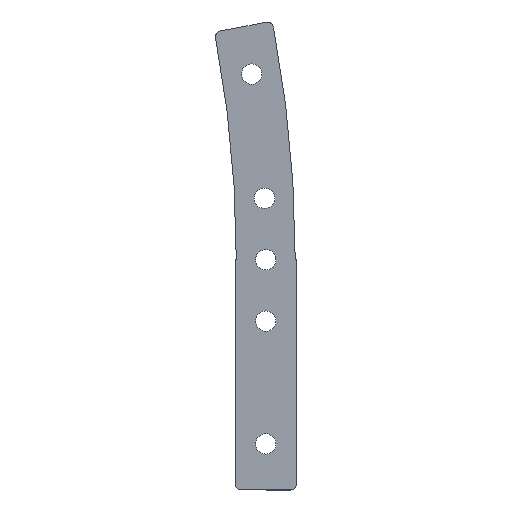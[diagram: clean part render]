
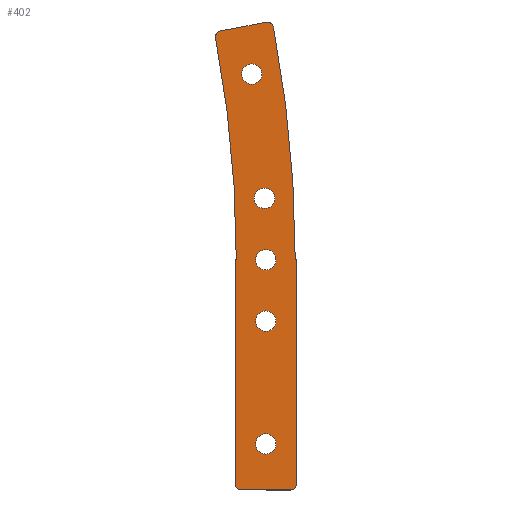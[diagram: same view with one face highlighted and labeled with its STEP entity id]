
A CAD part, top view. The second image highlights one B-rep face of the part: STEP entity #402.
In plain terms, the highlighted planar face has unit normal (0, 0, 1).
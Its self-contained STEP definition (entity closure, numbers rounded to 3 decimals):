
#20=FACE_BOUND('',#76,.T.);
#21=FACE_BOUND('',#77,.T.);
#22=FACE_BOUND('',#78,.T.);
#23=FACE_BOUND('',#79,.T.);
#24=FACE_BOUND('',#80,.T.);
#32=PLANE('',#468);
#51=FACE_OUTER_BOUND('',#75,.T.);
#75=EDGE_LOOP('',(#351,#352,#353,#354,#355,#356,#357,#358,#359,#360,#361,
#362));
#76=EDGE_LOOP('',(#363,#364));
#77=EDGE_LOOP('',(#365,#366));
#78=EDGE_LOOP('',(#367,#368));
#79=EDGE_LOOP('',(#369,#370));
#80=EDGE_LOOP('',(#371,#372));
#85=LINE('',#607,#114);
#93=LINE('',#645,#122);
#97=LINE('',#655,#126);
#104=LINE('',#693,#133);
#108=LINE('',#703,#137);
#109=LINE('',#705,#138);
#114=VECTOR('',#483,10.);
#122=VECTOR('',#519,10.);
#126=VECTOR('',#529,10.);
#133=VECTOR('',#572,10.);
#137=VECTOR('',#586,10.);
#138=VECTOR('',#589,10.);
#139=CIRCLE('',#424,2.);
#151=CIRCLE('',#439,2.);
#152=CIRCLE('',#442,2.);
#153=CIRCLE('',#445,2.);
#154=CIRCLE('',#447,3.324);
#155=CIRCLE('',#448,3.324);
#156=CIRCLE('',#450,3.324);
#157=CIRCLE('',#451,3.324);
#158=CIRCLE('',#453,3.324);
#159=CIRCLE('',#454,3.324);
#160=CIRCLE('',#456,3.324);
#161=CIRCLE('',#457,3.324);
#162=CIRCLE('',#459,3.324);
#163=CIRCLE('',#460,3.324);
#164=CIRCLE('',#463,390.4);
#165=CIRCLE('',#465,409.6);
#166=VERTEX_POINT('',#594);
#167=VERTEX_POINT('',#595);
#171=VERTEX_POINT('',#605);
#186=VERTEX_POINT('',#639);
#187=VERTEX_POINT('',#643);
#188=VERTEX_POINT('',#647);
#189=VERTEX_POINT('',#648);
#190=VERTEX_POINT('',#653);
#191=VERTEX_POINT('',#657);
#192=VERTEX_POINT('',#661);
#193=VERTEX_POINT('',#662);
#194=VERTEX_POINT('',#667);
#195=VERTEX_POINT('',#668);
#196=VERTEX_POINT('',#673);
#197=VERTEX_POINT('',#674);
#198=VERTEX_POINT('',#679);
#199=VERTEX_POINT('',#680);
#200=VERTEX_POINT('',#685);
#201=VERTEX_POINT('',#686);
#202=VERTEX_POINT('',#691);
#203=VERTEX_POINT('',#692);
#204=VERTEX_POINT('',#699);
#205=EDGE_CURVE('',#166,#167,#139,.T.);
#211=EDGE_CURVE('',#171,#166,#85,.T.);
#227=EDGE_CURVE('',#186,#171,#151,.T.);
#230=EDGE_CURVE('',#187,#186,#93,.T.);
#231=EDGE_CURVE('',#188,#189,#152,.T.);
#235=EDGE_CURVE('',#190,#188,#97,.T.);
#236=EDGE_CURVE('',#191,#190,#153,.T.);
#238=EDGE_CURVE('',#192,#193,#154,.T.);
#239=EDGE_CURVE('',#193,#192,#155,.T.);
#241=EDGE_CURVE('',#194,#195,#156,.T.);
#242=EDGE_CURVE('',#195,#194,#157,.T.);
#244=EDGE_CURVE('',#196,#197,#158,.T.);
#245=EDGE_CURVE('',#197,#196,#159,.T.);
#247=EDGE_CURVE('',#198,#199,#160,.T.);
#248=EDGE_CURVE('',#199,#198,#161,.T.);
#250=EDGE_CURVE('',#200,#201,#162,.T.);
#251=EDGE_CURVE('',#201,#200,#163,.T.);
#253=EDGE_CURVE('',#202,#203,#104,.T.);
#256=EDGE_CURVE('',#203,#191,#164,.T.);
#257=EDGE_CURVE('',#189,#204,#165,.T.);
#259=EDGE_CURVE('',#204,#187,#108,.T.);
#260=EDGE_CURVE('',#167,#202,#109,.T.);
#351=ORIENTED_EDGE('',*,*,#205,.F.);
#352=ORIENTED_EDGE('',*,*,#211,.F.);
#353=ORIENTED_EDGE('',*,*,#227,.F.);
#354=ORIENTED_EDGE('',*,*,#230,.F.);
#355=ORIENTED_EDGE('',*,*,#259,.F.);
#356=ORIENTED_EDGE('',*,*,#257,.F.);
#357=ORIENTED_EDGE('',*,*,#231,.F.);
#358=ORIENTED_EDGE('',*,*,#235,.F.);
#359=ORIENTED_EDGE('',*,*,#236,.F.);
#360=ORIENTED_EDGE('',*,*,#256,.F.);
#361=ORIENTED_EDGE('',*,*,#253,.F.);
#362=ORIENTED_EDGE('',*,*,#260,.F.);
#363=ORIENTED_EDGE('',*,*,#238,.T.);
#364=ORIENTED_EDGE('',*,*,#239,.T.);
#365=ORIENTED_EDGE('',*,*,#241,.T.);
#366=ORIENTED_EDGE('',*,*,#242,.T.);
#367=ORIENTED_EDGE('',*,*,#244,.T.);
#368=ORIENTED_EDGE('',*,*,#245,.T.);
#369=ORIENTED_EDGE('',*,*,#247,.T.);
#370=ORIENTED_EDGE('',*,*,#248,.T.);
#371=ORIENTED_EDGE('',*,*,#250,.T.);
#372=ORIENTED_EDGE('',*,*,#251,.T.);
#402=ADVANCED_FACE('',(#51,#20,#21,#22,#23,#24),#32,.T.);
#424=AXIS2_PLACEMENT_3D('',#596,#473,#474);
#439=AXIS2_PLACEMENT_3D('',#640,#513,#514);
#442=AXIS2_PLACEMENT_3D('',#649,#522,#523);
#445=AXIS2_PLACEMENT_3D('',#658,#532,#533);
#447=AXIS2_PLACEMENT_3D('',#663,#537,#538);
#448=AXIS2_PLACEMENT_3D('',#664,#539,#540);
#450=AXIS2_PLACEMENT_3D('',#669,#544,#545);
#451=AXIS2_PLACEMENT_3D('',#670,#546,#547);
#453=AXIS2_PLACEMENT_3D('',#675,#551,#552);
#454=AXIS2_PLACEMENT_3D('',#676,#553,#554);
#456=AXIS2_PLACEMENT_3D('',#681,#558,#559);
#457=AXIS2_PLACEMENT_3D('',#682,#560,#561);
#459=AXIS2_PLACEMENT_3D('',#687,#565,#566);
#460=AXIS2_PLACEMENT_3D('',#688,#567,#568);
#463=AXIS2_PLACEMENT_3D('',#697,#577,#578);
#465=AXIS2_PLACEMENT_3D('',#700,#581,#582);
#468=AXIS2_PLACEMENT_3D('',#706,#590,#591);
#473=DIRECTION('center_axis',(0.,0.,-1.));
#474=DIRECTION('ref_axis',(-0.707,-0.707,0.));
#483=DIRECTION('',(-1.,0.,0.));
#513=DIRECTION('center_axis',(0.,0.,-1.));
#514=DIRECTION('ref_axis',(0.707,-0.707,0.));
#519=DIRECTION('',(0.,-1.,0.));
#522=DIRECTION('center_axis',(0.,0.,-1.));
#523=DIRECTION('ref_axis',(0.562,0.827,0.));
#529=DIRECTION('',(0.982,0.19,0.));
#532=DIRECTION('center_axis',(0.,0.,-1.));
#533=DIRECTION('ref_axis',(-0.827,0.562,0.));
#537=DIRECTION('center_axis',(0.,0.,-1.));
#538=DIRECTION('ref_axis',(1.,0.,0.));
#539=DIRECTION('center_axis',(0.,0.,-1.));
#540=DIRECTION('ref_axis',(1.,0.,0.));
#544=DIRECTION('center_axis',(0.,0.,-1.));
#545=DIRECTION('ref_axis',(1.,0.,0.));
#546=DIRECTION('center_axis',(0.,0.,-1.));
#547=DIRECTION('ref_axis',(1.,0.,0.));
#551=DIRECTION('center_axis',(0.,0.,-1.));
#552=DIRECTION('ref_axis',(1.,0.,0.));
#553=DIRECTION('center_axis',(0.,0.,-1.));
#554=DIRECTION('ref_axis',(1.,0.,0.));
#558=DIRECTION('center_axis',(0.,0.,-1.));
#559=DIRECTION('ref_axis',(1.,0.,0.));
#560=DIRECTION('center_axis',(0.,0.,-1.));
#561=DIRECTION('ref_axis',(1.,0.,0.));
#565=DIRECTION('center_axis',(0.,0.,-1.));
#566=DIRECTION('ref_axis',(1.,0.,0.));
#567=DIRECTION('center_axis',(0.,0.,-1.));
#568=DIRECTION('ref_axis',(1.,0.,0.));
#572=DIRECTION('',(1.,0.,0.));
#577=DIRECTION('center_axis',(0.,0.,1.));
#578=DIRECTION('ref_axis',(1.,0.,0.));
#581=DIRECTION('center_axis',(0.,0.,-1.));
#582=DIRECTION('ref_axis',(-1.,0.,0.));
#586=DIRECTION('',(1.,0.,0.));
#589=DIRECTION('',(0.,1.,0.));
#590=DIRECTION('center_axis',(0.,0.,1.));
#591=DIRECTION('ref_axis',(1.,0.,0.));
#594=CARTESIAN_POINT('',(3.826,0.913,5.));
#595=CARTESIAN_POINT('',(1.826,2.913,5.));
#596=CARTESIAN_POINT('Origin',(3.826,2.913,5.));
#605=CARTESIAN_POINT('',(19.826,0.913,5.));
#607=CARTESIAN_POINT('',(21.826,0.913,5.));
#639=CARTESIAN_POINT('',(21.826,2.913,5.));
#640=CARTESIAN_POINT('Origin',(19.826,2.913,5.));
#643=CARTESIAN_POINT('',(21.826,75.913,5.));
#645=CARTESIAN_POINT('',(21.826,75.913,5.));
#647=CARTESIAN_POINT('',(12.,153.339,5.));
#648=CARTESIAN_POINT('',(14.345,151.746,5.));
#649=CARTESIAN_POINT('Origin',(12.38,151.376,5.));
#653=CARTESIAN_POINT('',(-2.923,150.452,5.));
#655=CARTESIAN_POINT('',(-4.882,150.073,5.));
#657=CARTESIAN_POINT('',(-4.509,148.118,5.));
#658=CARTESIAN_POINT('Origin',(-2.544,148.488,5.));
#661=CARTESIAN_POINT('',(10.55,136.413,5.));
#662=CARTESIAN_POINT('',(3.903,136.413,5.));
#663=CARTESIAN_POINT('Origin',(7.226,136.413,5.));
#664=CARTESIAN_POINT('Origin',(7.226,136.413,5.));
#667=CARTESIAN_POINT('',(14.75,95.913,5.));
#668=CARTESIAN_POINT('',(8.103,95.913,5.));
#669=CARTESIAN_POINT('Origin',(11.426,95.913,5.));
#670=CARTESIAN_POINT('Origin',(11.426,95.913,5.));
#673=CARTESIAN_POINT('',(15.15,75.913,5.));
#674=CARTESIAN_POINT('',(8.503,75.913,5.));
#675=CARTESIAN_POINT('Origin',(11.826,75.913,5.));
#676=CARTESIAN_POINT('Origin',(11.826,75.913,5.));
#679=CARTESIAN_POINT('',(15.15,55.913,5.));
#680=CARTESIAN_POINT('',(8.503,55.913,5.));
#681=CARTESIAN_POINT('Origin',(11.826,55.913,5.));
#682=CARTESIAN_POINT('Origin',(11.826,55.913,5.));
#685=CARTESIAN_POINT('',(15.15,15.913,5.));
#686=CARTESIAN_POINT('',(8.503,15.913,5.));
#687=CARTESIAN_POINT('Origin',(11.826,15.913,5.));
#688=CARTESIAN_POINT('Origin',(11.826,15.913,5.));
#691=CARTESIAN_POINT('',(1.826,75.913,5.));
#692=CARTESIAN_POINT('',(2.226,75.913,5.));
#693=CARTESIAN_POINT('',(1.826,75.913,5.));
#697=CARTESIAN_POINT('Origin',(-388.174,75.913,5.));
#699=CARTESIAN_POINT('',(21.426,75.913,5.));
#700=CARTESIAN_POINT('Origin',(-388.174,75.913,5.));
#703=CARTESIAN_POINT('',(21.426,75.913,5.));
#705=CARTESIAN_POINT('',(1.826,0.913,5.));
#706=CARTESIAN_POINT('Origin',(10.383,76.385,5.));
